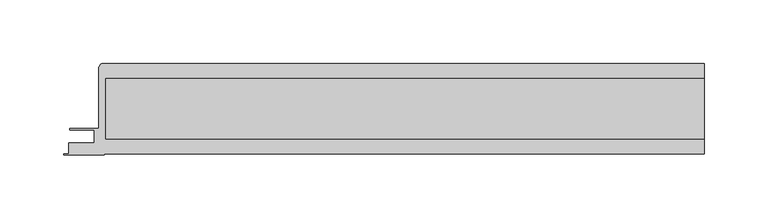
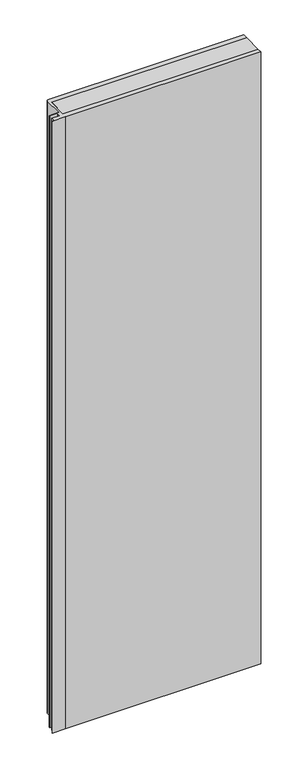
"""IFC4 building model written with IfcOpenShell, lengths in millimetres: plate geometry, Walls_External-Walls_Danpal_Danpatherm-K7-with-AIRPT-Frame : Walls_External-Walls_Danpal_Danpatherm-K7-with-AIRPT-Frame."""

from ifc_helpers import new_model, si_unit, point, frame, frame_2d, origin, place, context, project, spatial, polyline, circle_curve, trimmed, segment, composite_curve, outline, extrude, source, transform, mapped, element, save


def plate_eff3ac0b(model_context):
    return source(origin(), model_context, "Body", "SweptSolid", [
        extrude(outline(polyline([(-232.7129481, 60.3432727), (238.309327, 60.3432727), (238.309327, 12.7999917), (-232.7129481, 12.7999917), (-232.7129481, 60.3432727)])), frame((0.0, 0.0, -22.0), z_axis=(0.0, 0.0, 1.0), x_axis=(1.0, 0.0, 0.0)), (0.0, 0.0, 1.0), 1562.0),
        extrude(outline(composite_curve([segment(polyline([(-234.4664181, 72.343285), (238.309327, 72.343285), (238.309327, 60.3432727), (-232.7129481, 60.3432727), (-232.7129481, 12.7999917), (238.309327, 12.7999917), (238.309327, 0.8), (-234.0523184, 0.8), (-234.0523184, 0.0), (-265.9523184, 0.0), (-265.9523184, 0.8), (-261.7523184, 0.8), (-261.7523184, 9.7656785), (-241.9225586, 9.7656785), (-241.9225586, 19.6715177), (-260.8787043, 19.6715177), (-260.8787043, 20.9715623), (-238.309327, 20.9715623), (-238.309327, 68.5003761)]), True, "CONTINUOUS"), segment(trimmed(circle_curve(frame_2d((-234.4664181, 68.5003761)), 3.8429089), [point((-238.309327, 68.5003761))], [point((-234.4664181, 72.343285))], False, "CARTESIAN"), True, "CONTINUOUS")], self_intersect=False)), frame((0.0, 0.0, -22.0), z_axis=(0.0, 0.0, 1.0), x_axis=(1.0, 0.0, 0.0)), (0.0, 0.0, 1.0), 1562.0),
    ])


if __name__ == "__main__":
    model = new_model("IFC4")
    model_context = context("Model", 3, world=origin())
    ifc_project = project(units=[si_unit("LENGTHUNIT", "METRE", prefix="MILLI")], contexts=[model_context])
    site = spatial("IfcSite", under=ifc_project)
    building = spatial("IfcBuilding", under=site)
    placement = place(None, origin())
    plate_shape = plate_eff3ac0b(model_context)
    element("IfcPlate", 1, ObjectType="Walls_External-Walls_Danpal_Danpatherm-K7-with-AIRPT-Frame : Walls_External-Walls_Danpal_Danpatherm-K7-with-AIRPT-Frame", at=placement, inside=building, context=model_context, shape_type="MappedRepresentation", body=[
        mapped(plate_shape, transform((0.0, 0.0, 0.0), x_axis=(1.0, 0.0, 0.0), y_axis=(0.0, 1.0, 0.0), z_axis=(0.0, 0.0, 1.0))),
    ])
    save(model, "model.ifc")
